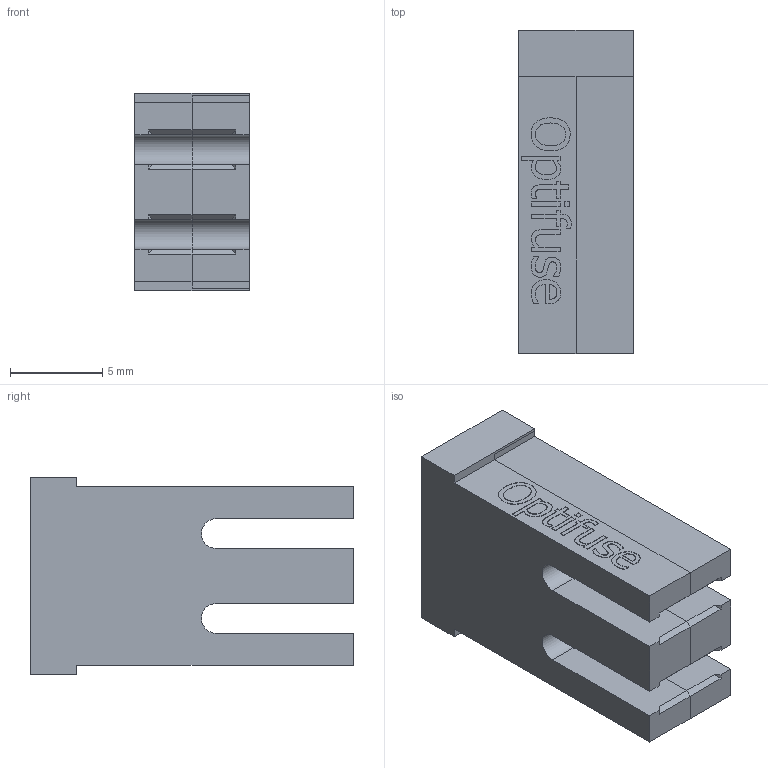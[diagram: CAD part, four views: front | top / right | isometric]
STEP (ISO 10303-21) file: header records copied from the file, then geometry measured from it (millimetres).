
FILE_DESCRIPTION(/* description */ (''),/* implementation_level */ '2;1');
FILE_NAME(/* name */ 'C:\Users\Hani\Desktop\work\FMX-MS\FMX-MS.stp',/* time_stamp */ '2021-10-16T13:32:56-07:00',/* author */ ('Hani'),/* organization */ (''),/* preprocessor_version */ 'ST-DEVELOPER v17',/* originating_system */ 'Autodesk Inventor 2019',/* authorisation */ '');
FILE_SCHEMA (('AUTOMOTIVE_DESIGN { 1 0 10303 214 3 1 1 }'));
Length unit declared in the file: inch
Products named in the file (1): FMX-MS
Bounding box: 6.2 x 17.5 x 10.7 mm (x, y, z)
Volume: 1007.7 mm3; surface area: 1320.4 mm2
Topology: 5 solids, 5 shells, 202 faces, 540 edges, 360 vertices
Faces by surface type: plane 131, bspline 67, cylinder 4
Entity records: 6674 total; most frequent: CARTESIAN_POINT 1974, ORIENTED_EDGE 1080, DIRECTION 686, EDGE_CURVE 540, LINE 398, VECTOR 398, VERTEX_POINT 360, EDGE_LOOP 214
